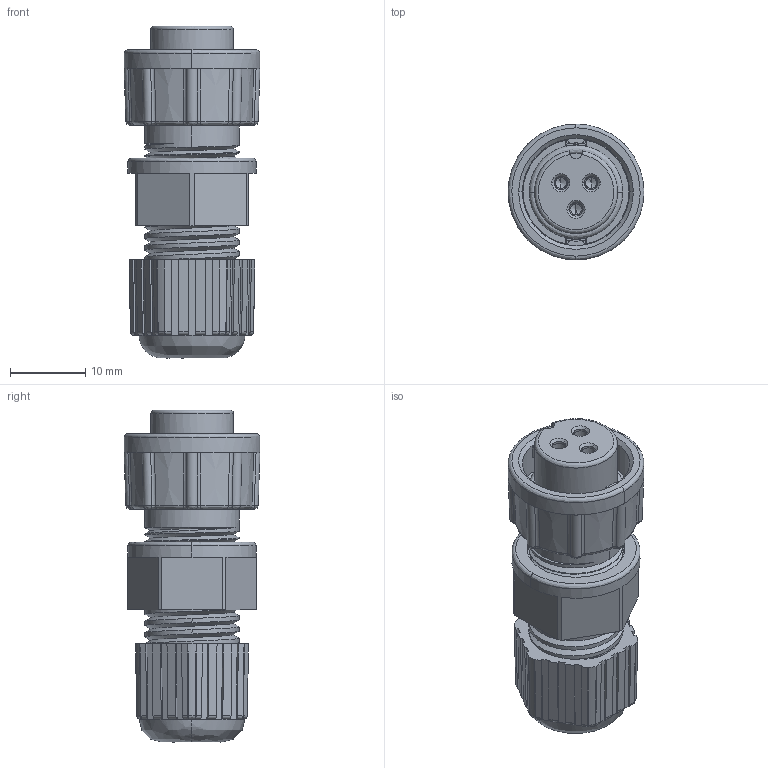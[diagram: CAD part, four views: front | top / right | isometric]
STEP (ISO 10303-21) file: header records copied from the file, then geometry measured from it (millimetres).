
FILE_DESCRIPTION (( 'STEP AP203' ), '1' );
FILE_NAME ('868-03A-203KIT.STEP', '2024-06-13T20:07:35', ( '' ), ( '' ), 'SwSTEP 2.0', 'SolidWorks 2020', '' );
FILE_SCHEMA (( 'CONFIG_CONTROL_DESIGN' ));
Products named in the file (1): 868-03A-203KIT
Bounding box: 18 x 18 x 44 mm (x, y, z)
Volume: 5773.9 mm3; surface area: 6846.7 mm2
Topology: 1 solids, 1 shells, 538 faces, 1450 edges, 921 vertices
Faces by surface type: plane 206, cylinder 169, bspline 93, cone 70
Entity records: 35449 total; most frequent: CARTESIAN_POINT 23282, ORIENTED_EDGE 2876, DIRECTION 2061, EDGE_CURVE 1438, VERTEX_POINT 921, AXIS2_PLACEMENT_3D 796, EDGE_LOOP 563, B_SPLINE_CURVE_WITH_KNOTS 561
